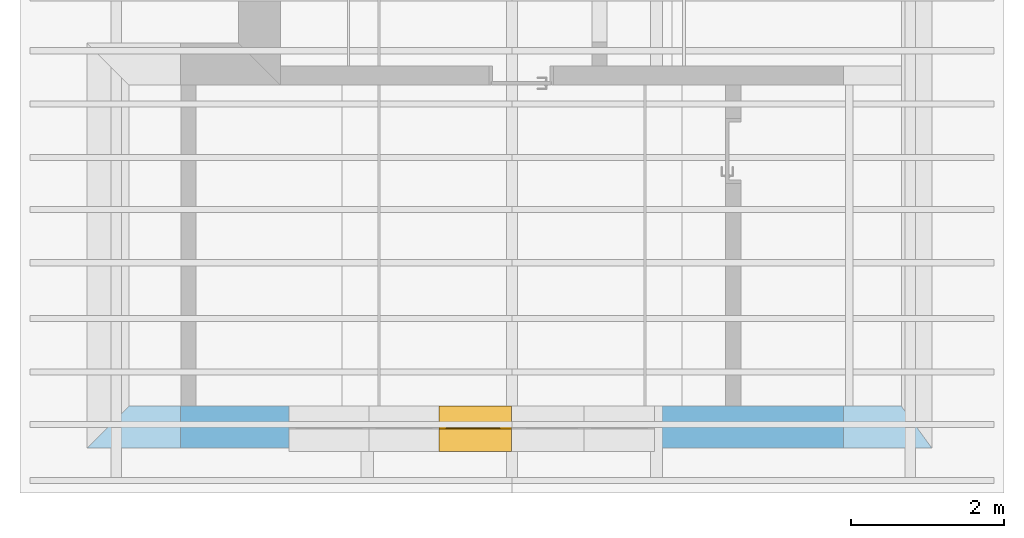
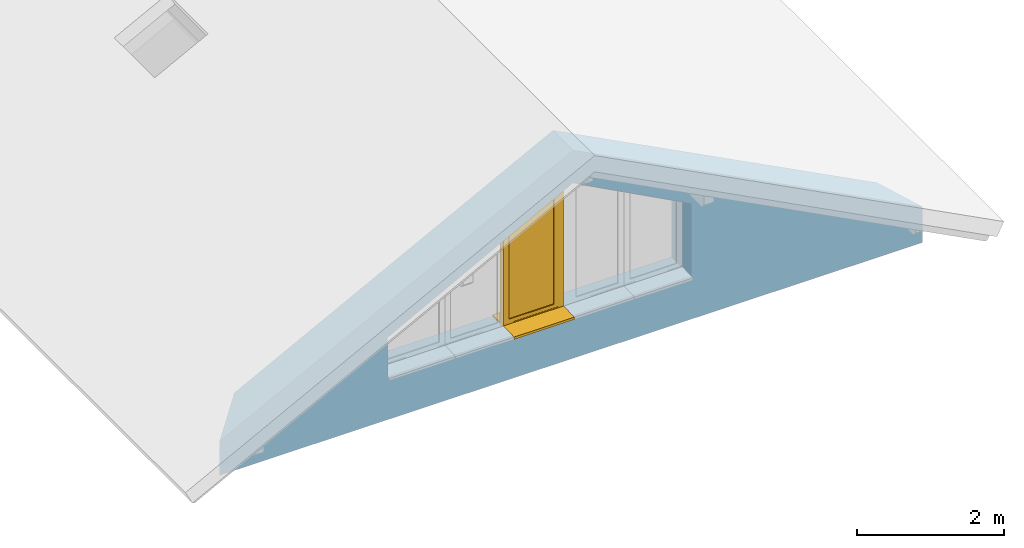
# One storey, part 12 of 18: 1 window, 5 openings, plus 1 element that does not belong to this part.
"""IFC2X3 building model written with IfcOpenShell, lengths in metres."""

from ifc_helpers import new_model, entity, si_unit, converted_unit, derived_unit, direction, frame, origin, place, context, subcontext, project, spatial, polyline, outline, extrude, clip, bounded_halfspace, faceted_brep, source, transform, mapped, material, material_list, layer, layer_set, layer_usage, type_object, type_shapes, element, fill, save


model = new_model("IFC2X3")

# Units and contexts
model_context = context("Model", 3, precision=1e-05, world=origin(), true_north=direction((6.123233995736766e-17, 1.0)))
body_context = subcontext(model_context, "Body", "Model", "MODEL_VIEW")
ifc_project = project(units=[si_unit("LENGTHUNIT", "METRE"), si_unit("AREAUNIT", "SQUARE_METRE"), si_unit("VOLUMEUNIT", "CUBIC_METRE"), si_unit("POWERUNIT", "WATT"), derived_unit("USERDEFINED", [(si_unit("MASSUNIT", "GRAM", prefix="KILO"), 1), (si_unit("TIMEUNIT", "SECOND"), -3)]), derived_unit("THERMALRESISTANCEUNIT", [(si_unit("MASSUNIT", "GRAM", prefix="KILO"), -1), (si_unit("TIMEUNIT", "SECOND"), 3), (si_unit("THERMODYNAMICTEMPERATUREUNIT", "KELVIN"), 1)]), derived_unit("USERDEFINED", [(si_unit("MASSUNIT", "GRAM", prefix="KILO"), 1), (si_unit("TIMEUNIT", "SECOND"), -2), (si_unit("THERMODYNAMICTEMPERATUREUNIT", "KELVIN"), -1)]), derived_unit("THERMALTRANSMITTANCEUNIT", [(si_unit("MASSUNIT", "GRAM", prefix="KILO"), 1), (si_unit("TIMEUNIT", "SECOND"), -3), (si_unit("THERMODYNAMICTEMPERATUREUNIT", "KELVIN"), -1)]), converted_unit("PLANEANGLEUNIT", "DEGREE", entity("IfcPlaneAngleMeasure", 0.017453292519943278), si_unit("PLANEANGLEUNIT", "RADIAN"), dimensions=[0, 0, 0, 0, 0, 0, 0]), derived_unit("MOMENTOFINERTIAUNIT", [(si_unit("LENGTHUNIT", "METRE"), 4)])], contexts=[model_context])

# Site, building, storey
site_placement = place(None, origin())
site = spatial("IfcSite", under=ifc_project, at=site_placement, Name="Default", CompositionType="ELEMENT")
building_placement = place(site_placement, origin())
building = spatial("IfcBuilding", under=site, at=building_placement, CompositionType="ELEMENT")
storey_placement = place(building_placement, frame((0.0, 0.0, 5.4)))
storey = spatial("IfcBuildingStorey", under=building, at=storey_placement, Name="1. Obergeschoss", CompositionType="ELEMENT", Elevation=5.4)

# Wall, openings, window
ifc_material_1 = material(Name="Dämmung - hart")
ifc_layer_1 = layer(ifc_material_1, 0.24999999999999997)
ifc_material_2 = material(Name="Mauerwerk - Ziegel")
ifc_layer_2 = layer(ifc_material_2, 0.29999999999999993)
ifc_layer_set = layer_set([ifc_layer_1, ifc_layer_2], Name="Basiswand:Ziegel+WD hart 300+250")
ifc_layer_usage = layer_usage(ifc_layer_set, "AXIS2", "POSITIVE", -0.27499999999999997)
wall_type = type_object("IfcWallType", Name="Basiswand:Ziegel+WD hart 300+250", PredefinedType="STANDARD", material=ifc_layer_set)
wall_placement = place(storey_placement, frame((27.55084124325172, 15.567272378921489, 0.0)))
wall = element("IfcWallStandardCase", 1, at=wall_placement, inside=storey, type_object=wall_type, material=ifc_layer_usage, Name="Basiswand:Ziegel+WD hart 300+250", ObjectType="Basiswand:Ziegel+WD hart 300+250", context=body_context, shape_type="Clipping", body=[
    clip(clip(extrude(outline(polyline([(11.075878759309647, -0.2750000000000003), (10.675878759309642, 0.27499999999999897), (10.043647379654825, 0.2750000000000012), (9.943647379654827, 0.27500000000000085), (8.572913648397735, 0.27500000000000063), (8.372913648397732, 0.27499999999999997), (1.4306053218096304, 0.27500000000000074), (1.2306053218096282, 0.2750000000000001), (0.5499999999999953, 0.27499999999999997), (0.0, -0.2750000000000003), (11.075878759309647, -0.2750000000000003)])), origin(), (0.0, 0.0, 1.0), 3.4651574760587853), bounded_halfspace(frame((0.5499999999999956, 0.2750000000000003, 0.8510321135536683), z_axis=(-0.4617486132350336, 0.0, 0.8870108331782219), x_axis=(0.0, -1.0, 0.0)), False, frame((0.5499999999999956, 0.2750000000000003, 0.8510321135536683)), polyline([(0.0, 0.0), (-0.5499999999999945, -0.5500000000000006), (5.021688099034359, -0.5500000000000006), (5.0216880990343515, 0.0), (0.880605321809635, 0.0), (0.6806053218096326, 0.0), (0.0, 0.0)]))), bounded_halfspace(frame((5.57168809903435, -0.2750000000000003, 3.465157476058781), z_axis=(0.4617486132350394, 0.0, 0.8870108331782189), x_axis=(0.0, 1.0, 0.0)), False, frame((5.57168809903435, -0.2750000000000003, 3.465157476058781)), polyline([(0.0, 0.0), (5.5041906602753, 0.0), (5.104190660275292, 0.5500000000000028), (4.471959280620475, 0.5500000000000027), (4.3719592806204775, 0.5500000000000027), (3.0012255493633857, 0.5500000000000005), (2.801225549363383, 0.5500000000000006), (0.0, 0.5500000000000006), (0.0, 0.0)]))),
])
opening_1_placement = place(wall_placement, frame((-27.550841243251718, -15.567272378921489, 0.7024999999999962)))
element("IfcOpeningElement", 2, at=opening_1_placement, cuts=wall, Name="Basiswand:Ziegel+WD hart 300+250", ObjectType="Opening", context=body_context, shape_type="Brep", body=[
    faceted_brep([(34.9879700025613, 15.27227237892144, 1.2243228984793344), (34.067970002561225, 15.272272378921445, 1.7134955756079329), (34.067970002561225, 15.272272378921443, 0.010000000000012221), (34.9879700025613, 15.27227237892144, 0.010000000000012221), (34.06797000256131, 15.542272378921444, 1.7134955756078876), (34.06797000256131, 15.542272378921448, 1.747472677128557), (34.06797000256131, 15.842272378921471, 1.747472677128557), (34.0679700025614, 15.842272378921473, 0.0), (34.06797000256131, 15.542272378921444, 0.0), (34.06797000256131, 15.542272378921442, 0.020000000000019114), (34.98797000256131, 15.542272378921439, 0.020000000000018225), (34.98797000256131, 15.542272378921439, 0.0), (34.98797000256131, 15.842272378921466, 0.0), (34.98797000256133, 15.842272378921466, 1.2582999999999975), (34.98797000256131, 15.542272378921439, 1.2582999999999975), (34.98797000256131, 15.542272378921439, 1.2243228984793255)], [[[0, 1, 2, 3]], [[1, 4, 5, 6, 7, 8, 9, 2]], [[2, 9, 10, 3]], [[3, 10, 11, 12, 13, 14, 15, 0]], [[0, 15, 4, 1]], [[6, 13, 12, 7]], [[11, 10, 9, 8]], [[6, 5, 14, 13]], [[12, 11, 8, 7]], [[5, 4, 15, 14]]]),
])
opening_2_placement = place(wall_placement, frame((-27.550841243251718, -15.567272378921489, 0.7024999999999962)))
element("IfcOpeningElement", 3, at=opening_2_placement, cuts=wall, Name="Basiswand:Ziegel+WD hart 300+250", ObjectType="Opening", context=body_context, shape_type="Brep", body=[
    faceted_brep([(31.247970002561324, 15.272272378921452, 1.2243228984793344), (31.247970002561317, 15.27227237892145, 0.010000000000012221), (32.1679700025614, 15.27227237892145, 0.010000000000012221), (32.1679700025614, 15.27227237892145, 1.7134955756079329), (32.16797000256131, 15.542272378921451, 0.020000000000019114), (32.16797000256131, 15.542272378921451, 0.0), (32.167970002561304, 15.842272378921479, 0.0), (32.167970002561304, 15.842272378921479, 1.747472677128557), (32.167970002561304, 15.542272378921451, 1.747472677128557), (32.16797000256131, 15.54227237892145, 1.7134955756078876), (31.247970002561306, 15.542272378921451, 0.020000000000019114), (31.247970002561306, 15.542272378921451, 1.2243228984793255), (31.247970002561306, 15.542272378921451, 1.2582999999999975), (31.247970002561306, 15.842272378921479, 1.2582999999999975), (31.247970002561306, 15.842272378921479, 0.0), (31.247970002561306, 15.542272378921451, 0.0)], [[[0, 1, 2, 3]], [[3, 2, 4, 5, 6, 7, 8, 9]], [[2, 1, 10, 4]], [[1, 0, 11, 12, 13, 14, 15, 10]], [[0, 3, 9, 11]], [[7, 6, 14, 13]], [[8, 12, 11, 9]], [[7, 13, 12, 8]], [[14, 6, 5, 15]], [[15, 5, 4, 10]]]),
])
opening_3_placement = place(wall_placement, frame((-27.550841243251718, -15.567272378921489, 0.702472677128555)))
element("IfcOpeningElement", 4, at=opening_3_placement, cuts=wall, Name="Basiswand:Ziegel+WD hart 300+250", ObjectType="Opening", context=body_context, shape_type="Brep", body=[
    faceted_brep([(34.06797000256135, 15.272272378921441, 1.7135228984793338), (33.117970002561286, 15.272272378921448, 2.2186468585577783), (33.117970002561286, 15.272272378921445, 0.010000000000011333), (34.06797000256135, 15.272272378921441, 0.010000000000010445), (33.11797000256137, 15.542272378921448, 2.218646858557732), (33.11797000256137, 15.54227237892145, 2.2526239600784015), (33.11797000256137, 15.842272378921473, 2.2526239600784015), (33.117970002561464, 15.842272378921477, 0.0), (33.11797000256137, 15.542272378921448, 0.0), (33.11797000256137, 15.542272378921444, 0.020000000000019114), (34.06797000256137, 15.54227237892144, 0.020000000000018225), (34.06797000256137, 15.54227237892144, 0.0), (34.06797000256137, 15.842272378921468, 0.0), (34.06797000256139, 15.842272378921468, 1.7474999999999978), (34.06797000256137, 15.54227237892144, 1.7474999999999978), (34.06797000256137, 15.54227237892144, 1.7135228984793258)], [[[0, 1, 2, 3]], [[1, 4, 5, 6, 7, 8, 9, 2]], [[2, 9, 10, 3]], [[3, 10, 11, 12, 13, 14, 15, 0]], [[0, 15, 4, 1]], [[6, 13, 12, 7]], [[11, 10, 9, 8]], [[6, 5, 14, 13]], [[12, 11, 8, 7]], [[5, 4, 15, 14]]]),
])
opening_4_placement = place(wall_placement, frame((-27.550841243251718, -15.567272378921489, 0.702472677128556)))
opening_4 = element("IfcOpeningElement", 5, at=opening_4_placement, cuts=wall, Name="Basiswand:Ziegel+WD hart 300+250", ObjectType="Opening", context=body_context, shape_type="Brep", body=[
    faceted_brep([(32.16797000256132, 15.272272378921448, 1.7135228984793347), (32.16797000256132, 15.272272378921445, 0.010000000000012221), (33.117970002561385, 15.272272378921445, 0.010000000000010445), (33.117970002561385, 15.272272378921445, 2.2186468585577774), (33.1179700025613, 15.542272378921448, 0.020000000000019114), (33.11797000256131, 15.542272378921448, 0.0), (33.1179700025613, 15.842272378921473, 0.0), (33.1179700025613, 15.842272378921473, 2.2526239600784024), (33.1179700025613, 15.542272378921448, 2.252623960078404), (33.11797000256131, 15.542272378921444, 2.218646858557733), (32.1679700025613, 15.542272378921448, 0.020000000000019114), (32.1679700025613, 15.542272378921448, 1.7135228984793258), (32.167970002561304, 15.542272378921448, 1.7474999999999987), (32.1679700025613, 15.842272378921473, 1.7474999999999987), (32.1679700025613, 15.842272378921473, 0.0), (32.1679700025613, 15.542272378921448, 0.0)], [[[0, 1, 2, 3]], [[3, 2, 4, 5, 6, 7, 8, 9]], [[2, 1, 10, 4]], [[1, 0, 11, 12, 13, 14, 15, 10]], [[0, 3, 9, 11]], [[7, 6, 14, 13]], [[8, 12, 11, 9]], [[7, 13, 12, 8]], [[14, 6, 5, 15]], [[15, 5, 4, 10]]]),
])
opening_5_placement = place(wall_placement, frame((-27.550841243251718, -15.567272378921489, 0.7024999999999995)))
element("IfcOpeningElement", 6, at=opening_5_placement, cuts=wall, Name="Basiswand:Ziegel+WD hart 300+250", ObjectType="Opening", context=body_context, shape_type="Brep", body=[
    faceted_brep([(30.197970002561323, 15.272272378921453, 0.6660228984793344), (30.197970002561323, 15.272272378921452, 0.010000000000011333), (31.247970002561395, 15.272272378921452, 0.010000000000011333), (31.247970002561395, 15.272272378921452, 1.2243178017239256), (31.24797000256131, 15.542272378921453, 0.020000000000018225), (31.24797000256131, 15.542272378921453, 0.0), (31.24797000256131, 15.84227237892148, 0.0), (31.247970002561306, 15.84227237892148, 1.2582949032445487), (31.24797000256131, 15.542272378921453, 1.2582949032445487), (31.24797000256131, 15.542272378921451, 1.2243178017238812), (30.19797000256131, 15.542272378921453, 0.020000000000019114), (30.19797000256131, 15.542272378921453, 0.6660228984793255), (30.19797000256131, 15.542272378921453, 0.6999999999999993), (30.19797000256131, 15.84227237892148, 0.6999999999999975), (30.19797000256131, 15.84227237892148, 0.0), (30.19797000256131, 15.542272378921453, 0.0)], [[[0, 1, 2, 3]], [[3, 2, 4, 5, 6, 7, 8, 9]], [[2, 1, 10, 4]], [[1, 0, 11, 12, 13, 14, 15, 10]], [[0, 3, 9, 11]], [[7, 6, 14, 13]], [[8, 12, 11, 9]], [[7, 13, 12, 8]], [[14, 6, 5, 15]], [[15, 5, 4, 10]]]),
])
ifc_material_3 = material(Name="Holz - generisch 140-100-70")
ifc_material_4 = material(Name="Kunststoff - grau 70-70-70")
ifc_material_5 = material(Name="Glas - Isolierverglasung klar")
ifc_material_list = material_list([ifc_material_3, ifc_material_4, ifc_material_5])
window_style = type_object("IfcWindowStyle", Name="FE Schräg 1 tlg - Fix:950 x 1747", ConstructionType="NOTDEFINED", OperationType="NOTDEFINED", ParameterTakesPrecedence=False, Sizeable=False, material=ifc_material_list)
shared_shape = source(origin(), body_context, "Body", "SolidModel", [
    extrude(outline(polyline([(-0.07333333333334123, -0.014333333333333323), (0.1366666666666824, -0.014333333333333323), (0.1366666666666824, 0.010666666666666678), (-0.06333333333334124, 0.010666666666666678), (-0.06333333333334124, 0.0036666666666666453), (-0.07333333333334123, 0.0036666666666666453), (-0.07333333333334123, -0.014333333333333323)])), frame((0.9500000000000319, 0.6433333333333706, 0.010666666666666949), z_axis=(-1.0, 0.0, 0.0), x_axis=(0.0, 1.0, 0.0)), (0.0, 0.0, 1.0), 0.9499999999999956),
    extrude(outline(polyline([(-1.2525929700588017, -0.4749999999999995), (1.0000309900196, -0.4749999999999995), (1.0000309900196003, 0.4749999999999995), (-0.7474690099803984, 0.47499999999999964), (-1.2525929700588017, -0.4749999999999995)]), holes=[polyline([(-1.0709052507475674, -0.32499999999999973), (-0.6933915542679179, 0.3850000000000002), (0.9000309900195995, 0.3850000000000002), (0.9000309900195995, -0.3249999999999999), (-1.0709052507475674, -0.32499999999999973)])]), frame((0.4750000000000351, 0.8700000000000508, 1.0000309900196), z_axis=(0.0, -1.0, 0.0), x_axis=(0.0, 0.0, -1.0)), (0.0, 0.0, 1.0), 0.08999999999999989),
    extrude(outline(polyline([(-1.0798465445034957, -0.35500000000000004), (0.891089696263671, -0.35500000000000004), (0.891089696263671, 0.35500000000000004), (-0.7023328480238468, 0.35500000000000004), (-1.0798465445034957, -0.35500000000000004)])), frame((0.5050000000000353, 0.8550000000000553, 0.9910896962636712), z_axis=(0.0, -1.0, 0.0), x_axis=(0.0, 0.0, -1.0)), (0.0, 0.0, 1.0), 0.04399999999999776),
    faceted_brep([(0.9500000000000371, 1.1620000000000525, 0.011185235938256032), (0.0, 1.1620000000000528, 0.011185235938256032), (0.0, 1.1400000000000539, 0.01200005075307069), (0.0, 0.872000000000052, 0.021925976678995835), (0.9500000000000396, 0.872000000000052, 0.021925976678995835), (0.9500000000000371, 1.1400000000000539, 0.01200005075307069), (0.9500000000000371, 1.1620000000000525, -0.028814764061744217), (0.0, 1.1620000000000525, -0.028814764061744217), (0.9500000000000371, 1.1500000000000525, -0.028814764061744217), (0.0, 1.1500000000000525, -0.028814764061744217), (0.9500000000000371, 1.1500000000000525, -0.0268147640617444), (0.0, 1.1500000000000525, -0.0268147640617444), (0.9500000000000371, 1.1600000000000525, -0.0268147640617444), (0.0, 1.1600000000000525, -0.0268147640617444), (0.9500000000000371, 1.1600000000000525, 0.009259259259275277), (0.0, 1.1600000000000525, 0.009259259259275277), (0.9500000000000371, 1.1400000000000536, 0.010000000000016), (0.9500000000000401, 0.8700000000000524, 0.02000000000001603), (0.0, 0.8700000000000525, 0.02000000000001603), (0.0, 1.1400000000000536, 0.010000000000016), (0.9500000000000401, 0.8700000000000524, 0.040000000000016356), (0.0, 0.8700000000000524, 0.040000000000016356), (0.9500000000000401, 0.872000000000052, 0.040000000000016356), (0.0, 0.872000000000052, 0.040000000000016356)], [[[0, 1, 2, 3, 4, 5]], [[6, 7, 1, 0]], [[8, 9, 7, 6]], [[10, 11, 9, 8]], [[12, 13, 11, 10]], [[14, 15, 13, 12]], [[16, 17, 18, 19, 15, 14]], [[20, 21, 18, 17]], [[22, 23, 21, 20]], [[4, 3, 23, 22]], [[16, 14, 12, 10, 8, 6, 0, 5]], [[19, 18, 21, 23, 3, 2]], [[5, 4, 22, 20, 17, 16]], [[2, 1, 7, 9, 11, 13, 15, 19]]]),
])
type_shapes(window_style, [shared_shape])
window_placement = place(opening_4_placement, frame((33.11797000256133, 16.412272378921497, 0.0), z_axis=(0.0, 0.0, 1.0), x_axis=(-1.0, 0.0, 0.0)))
window = element("IfcWindow", 7, at=window_placement, inside=storey, type_object=window_style, material=ifc_material_list, Name="FE Schräg 1 tlg - Fix:950 x 1747", ObjectType="FE Schräg 1 tlg - Fix:950 x 1747", OverallHeight=3.1026239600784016, OverallWidth=1.0557961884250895, context=body_context, shape_type="MappedRepresentation", body=[
    mapped(shared_shape, transform((0.0, 0.0, 0.0), scale=1.0)),
])
fill(opening_4, window)

save(model, "model.ifc")
